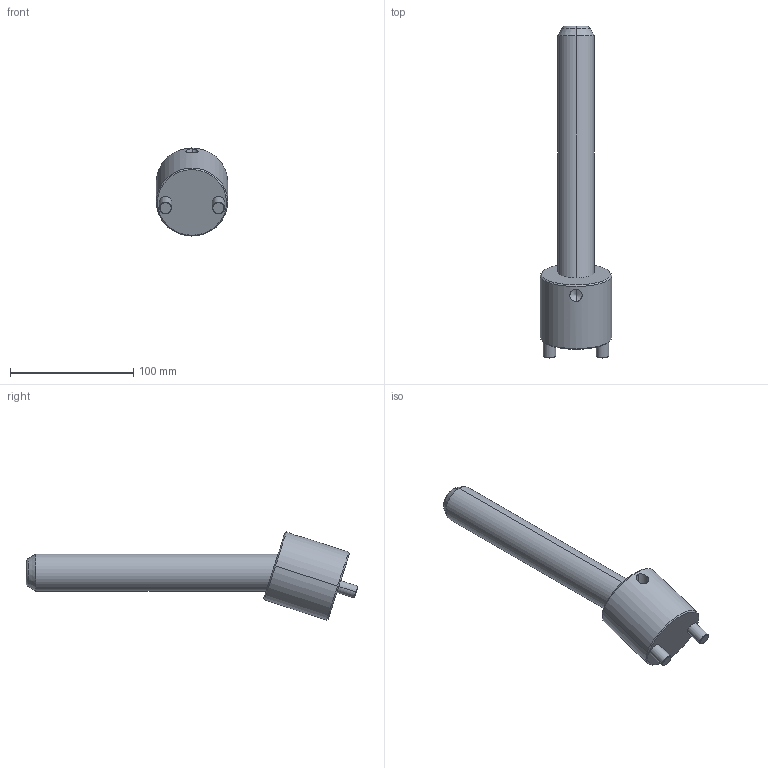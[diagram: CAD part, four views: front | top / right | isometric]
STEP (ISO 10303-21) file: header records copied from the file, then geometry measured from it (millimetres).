
FILE_DESCRIPTION(('CATIA V5 STEP Exchange'),'2;1');
FILE_NAME('C:\Users\Raffaele\Desktop\3D BOLEX\3D FILES CF BOLEX\19-INCLINED ASSEMBLY REF_CI\CI1830200.stp','2019-06-24T07:48:05+00:00',('none'),('none'),'CATIA Version 5 Release 20 GA (IN-10)','CATIA V5 STEP AP203','none');
FILE_SCHEMA(('CONFIG_CONTROL_DESIGN'));
Length unit declared in the file: millimetre
Products named in the file (1): CI1830200
Assembly tree (2 placements, depth 2):
  CI1830200
    #58
    #584
Bounding box: 58 x 269.82 x 71.54 mm (x, y, z)
Volume: 285103 mm3; surface area: 44900 mm2
Topology: 2 solids, 2 shells, 39 faces, 82 edges, 47 vertices
Faces by surface type: cone 14, cylinder 14, plane 7, torus 4
Entity records: 1557 total; most frequent: CARTESIAN_POINT 696, ORIENTED_EDGE 160, DIRECTION 146, EDGE_CURVE 80, AXIS2_PLACEMENT_3D 73, VERTEX_POINT 47, EDGE_LOOP 43, ADVANCED_FACE 39
